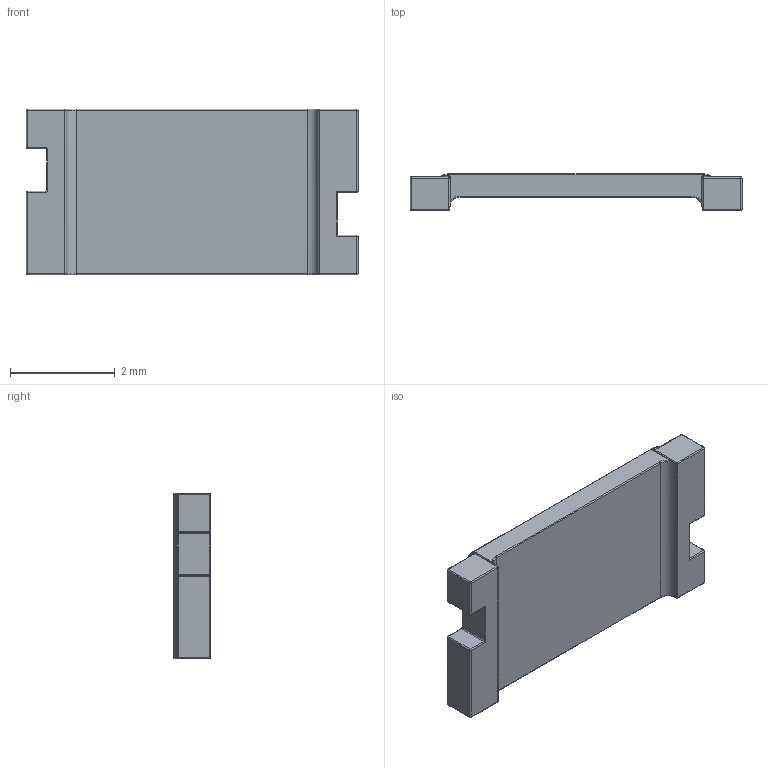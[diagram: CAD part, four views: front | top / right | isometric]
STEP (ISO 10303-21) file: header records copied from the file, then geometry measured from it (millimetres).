
FILE_DESCRIPTION (( 'STEP AP214' ), '1' );
FILE_NAME ('User Library-CSM2512.STEP', '2019-07-09T15:34:37', ( '' ), ( '' ), 'SwSTEP 2.0', 'SolidWorks 2019', '' );
FILE_SCHEMA (( 'AUTOMOTIVE_DESIGN' ));
Length unit declared in the file: millimetre
Products named in the file (1): User Library-CSM2512
Bounding box: 6.35 x 0.7 x 3.17 mm (x, y, z)
Volume: 9.7 mm3; surface area: 60.9 mm2
Topology: 3 solids, 3 shells, 139 faces, 310 edges, 150 vertices
Faces by surface type: cylinder 62, plane 29, sphere 28, bspline 12, torus 8
Entity records: 5475 total; most frequent: CARTESIAN_POINT 1056, DIRECTION 624, ORIENTED_EDGE 564, EDGE_CURVE 282, AXIS2_PLACEMENT_3D 246, VERTEX_POINT 150, UNCERTAINTY_MEASURE_WITH_UNIT 144, PRESENTATION_STYLE_ASSIGNMENT 143
